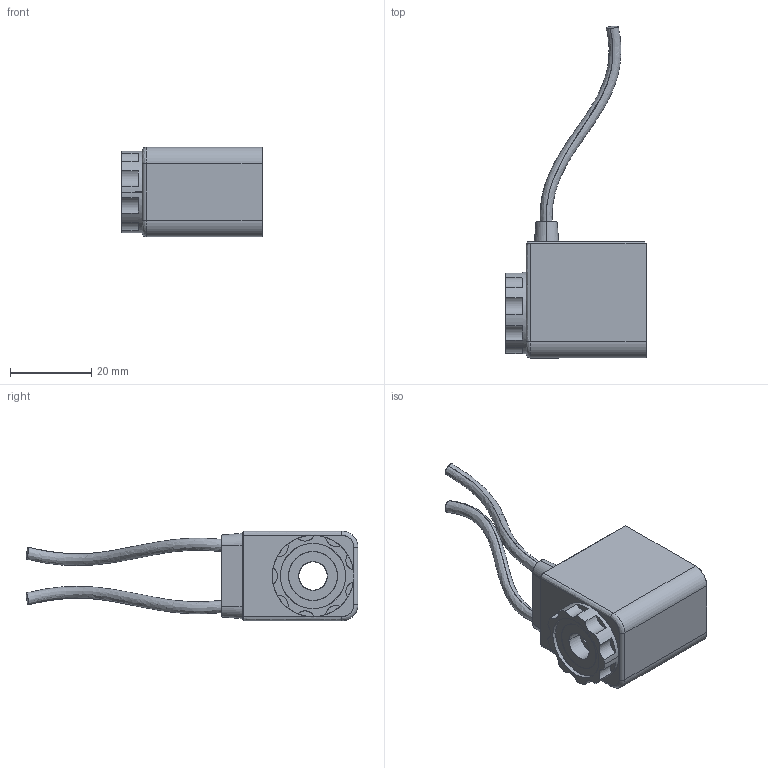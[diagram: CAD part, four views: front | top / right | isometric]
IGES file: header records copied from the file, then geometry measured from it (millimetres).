
Start section: SolidWorks IGES file using analytic representation for surfaces
Bounding box: 34.5 x 81.6 x 22 mm (x, y, z)
Surface area: 6907.3 mm2 (no closed solid volume)
Topology: 0 solids, 0 shells, 105 faces, 1602 edges, 1602 vertices
Faces by surface type: bspline 54, revolution 51
